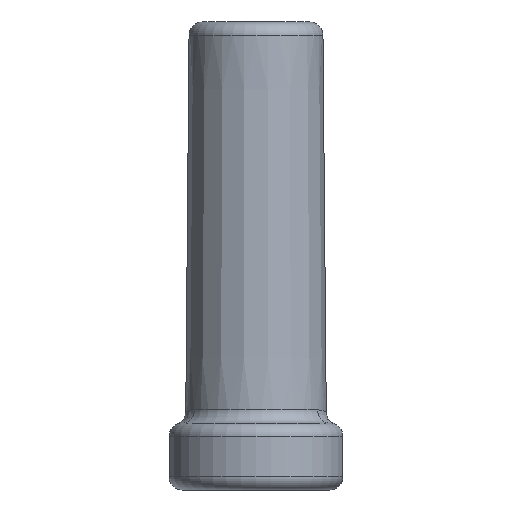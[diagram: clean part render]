
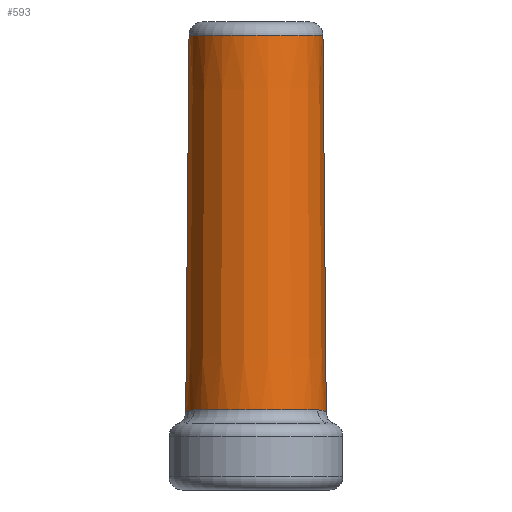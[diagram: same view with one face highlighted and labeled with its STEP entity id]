
A CAD part, left-side view. The second image highlights one B-rep face of the part: STEP entity #593.
In plain terms, the highlighted conical face has half-angle 0.5 degrees and reference radius 0.5 mm.
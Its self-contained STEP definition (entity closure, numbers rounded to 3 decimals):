
#15=CONICAL_SURFACE('',#663,0.5,0.5);
#20=B_SPLINE_CURVE_WITH_KNOTS('',3,(#1022,#1023,#1024,#1025),
 .UNSPECIFIED.,.F.,.F.,(4,4),(-0.092,-0.061),
 .UNSPECIFIED.);
#21=B_SPLINE_CURVE_WITH_KNOTS('',3,(#1052,#1053,#1054,#1055),
 .UNSPECIFIED.,.F.,.F.,(4,4),(-0.031,0.),.UNSPECIFIED.);
#69=LINE('',#1109,#109);
#72=LINE('',#1115,#112);
#109=VECTOR('',#809,10.);
#112=VECTOR('',#814,10.);
#157=FACE_OUTER_BOUND('',#195,.T.);
#195=EDGE_LOOP('',(#483,#484,#485,#486,#487,#488));
#230=CIRCLE('',#651,0.525);
#237=CIRCLE('',#664,0.501);
#277=VERTEX_POINT('',#987);
#280=VERTEX_POINT('',#992);
#281=VERTEX_POINT('',#1015);
#284=VERTEX_POINT('',#1050);
#291=VERTEX_POINT('',#1108);
#293=VERTEX_POINT('',#1114);
#342=EDGE_CURVE('',#280,#277,#230,.T.);
#345=EDGE_CURVE('',#277,#281,#20,.T.);
#349=EDGE_CURVE('',#284,#280,#21,.T.);
#363=EDGE_CURVE('',#281,#291,#69,.T.);
#366=EDGE_CURVE('',#284,#293,#72,.T.);
#367=EDGE_CURVE('',#291,#293,#237,.T.);
#483=ORIENTED_EDGE('',*,*,#345,.F.);
#484=ORIENTED_EDGE('',*,*,#342,.F.);
#485=ORIENTED_EDGE('',*,*,#349,.F.);
#486=ORIENTED_EDGE('',*,*,#366,.T.);
#487=ORIENTED_EDGE('',*,*,#367,.F.);
#488=ORIENTED_EDGE('',*,*,#363,.F.);
#593=ADVANCED_FACE('',(#157),#15,.T.);
#651=AXIS2_PLACEMENT_3D('',#994,#777,#778);
#663=AXIS2_PLACEMENT_3D('',#1113,#812,#813);
#664=AXIS2_PLACEMENT_3D('',#1116,#815,#816);
#777=DIRECTION('center_axis',(0.,0.,-1.));
#778=DIRECTION('ref_axis',(-1.,0.,0.));
#809=DIRECTION('',(0.,-0.009,1.));
#812=DIRECTION('center_axis',(0.,0.,-1.));
#813=DIRECTION('ref_axis',(0.,1.,0.));
#814=DIRECTION('',(0.,0.009,1.));
#815=DIRECTION('center_axis',(0.,0.,1.));
#816=DIRECTION('ref_axis',(-1.,0.,0.));
#987=CARTESIAN_POINT('',(-4.75,0.462,0.099));
#992=CARTESIAN_POINT('',(-4.75,-0.462,0.099));
#994=CARTESIAN_POINT('Origin',(-4.5,0.,0.099));
#1015=CARTESIAN_POINT('',(-4.5,0.525,0.084));
#1022=CARTESIAN_POINT('Ctrl Pts',(-4.75,0.462,0.099));
#1023=CARTESIAN_POINT('Ctrl Pts',(-4.673,0.503,0.099));
#1024=CARTESIAN_POINT('Ctrl Pts',(-4.587,0.525,0.084));
#1025=CARTESIAN_POINT('Ctrl Pts',(-4.5,0.525,0.084));
#1050=CARTESIAN_POINT('',(-4.5,-0.525,0.084));
#1052=CARTESIAN_POINT('Ctrl Pts',(-4.5,-0.525,
0.084));
#1053=CARTESIAN_POINT('Ctrl Pts',(-4.587,-0.525,
0.084));
#1054=CARTESIAN_POINT('Ctrl Pts',(-4.673,-0.503,
0.099));
#1055=CARTESIAN_POINT('Ctrl Pts',(-4.75,-0.462,0.099));
#1108=CARTESIAN_POINT('',(-4.5,0.501,2.901));
#1109=CARTESIAN_POINT('',(-4.5,0.526,0.));
#1113=CARTESIAN_POINT('Origin',(-4.5,0.,3.));
#1114=CARTESIAN_POINT('',(-4.5,-0.501,2.901));
#1115=CARTESIAN_POINT('',(-4.5,-0.526,0.));
#1116=CARTESIAN_POINT('Origin',(-4.5,0.,2.901));
